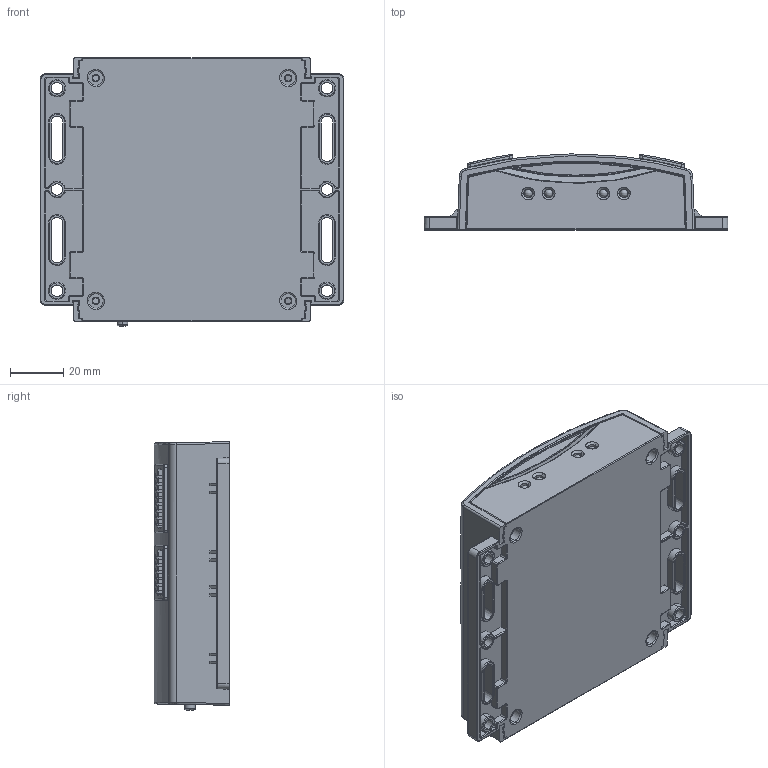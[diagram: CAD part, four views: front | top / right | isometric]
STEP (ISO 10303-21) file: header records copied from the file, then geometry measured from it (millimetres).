
FILE_DESCRIPTION (( 'STEP AP203' ), '1' );
FILE_NAME ('VEX-MICROCONTROLLER.STEP', '2007-08-26T01:30:05', ( 'Innovation First, Inc.' ), ( 'Innovation First, Inc.' ), 'SwSTEP 2.0', 'SolidWorks 2006052', '' );
FILE_SCHEMA (( 'CONFIG_CONTROL_DESIGN' ));
Products named in the file (14): MICROCONTROLLER-PCB-PIN6; MICROCONTROLLER-PCB-PIN4; MICROCONTROLLER-COVER-C; MICROCONTROLLER-COVER-B; MICROCONTROLLER-FRONT; VEX-MICROCONTROLLER; MICROCONTROLLER-PCB-POWER; MICROCONTROLLER-PCB-BASE; MICROCONTROLLER-SWITCH; MICROCONTROLLER-COVER-A; MICROCONTROLLER-BOT; MICROCONTROLLER-TOP; MICROCONTROLLER-PCB; MICROCONTROLLER-PCB-SWITCH
Assembly tree (14 placements, depth 3):
  VEX-MICROCONTROLLER
    MICROCONTROLLER-COVER-B
    MICROCONTROLLER-SWITCH
    MICROCONTROLLER-TOP
    MICROCONTROLLER-COVER-C
    MICROCONTROLLER-COVER-A
    MICROCONTROLLER-FRONT
    MICROCONTROLLER-PCB
      MICROCONTROLLER-PCB-PIN4  x2
      MICROCONTROLLER-PCB-PIN6
      MICROCONTROLLER-PCB-BASE
      MICROCONTROLLER-PCB-POWER
      MICROCONTROLLER-PCB-SWITCH
    MICROCONTROLLER-BOT
Bounding box: 114.29 x 28.49 x 101.05 mm (x, y, z)
Volume: 75794.9 mm3; surface area: 86175.2 mm2
Topology: 19 solids, 20 shells, 2915 faces, 7947 edges, 5161 vertices
Faces by surface type: plane 1953, cylinder 517, bspline 361, cone 72, torus 12
Entity records: 110494 total; most frequent: CARTESIAN_POINT 39647, ORIENTED_EDGE 15590, DIRECTION 12351, EDGE_CURVE 7795, LINE 5501, VECTOR 5501, VERTEX_POINT 5089, AXIS2_PLACEMENT_3D 3425
